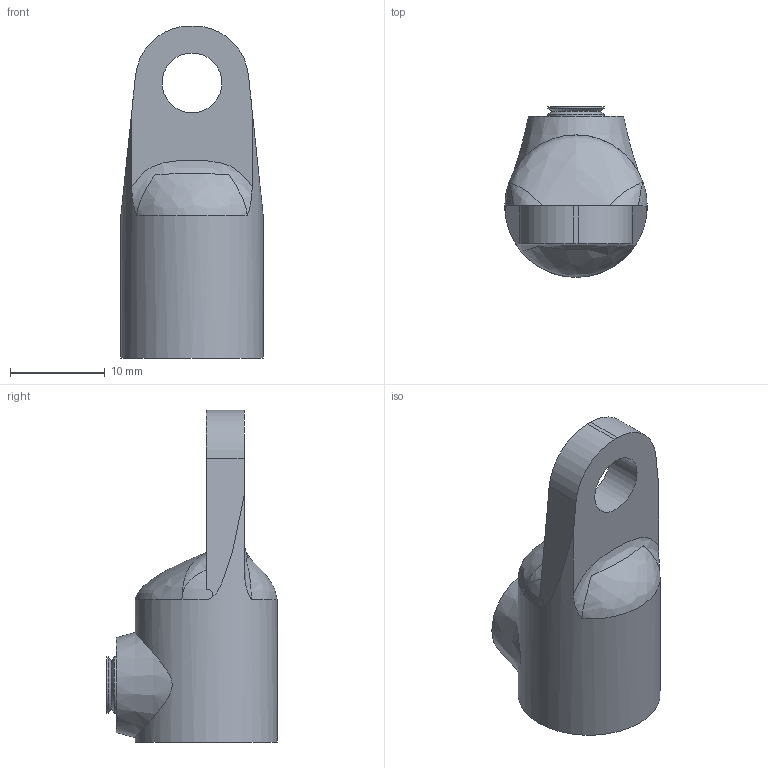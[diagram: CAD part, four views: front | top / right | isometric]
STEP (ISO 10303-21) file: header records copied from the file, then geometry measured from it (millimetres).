
FILE_DESCRIPTION (( 'STEP AP214' ), '1' );
FILE_NAME ('282119_Industrilas.step', '2020-08-24T21:11:37', ( '' ), ( '' ), 'SwSTEP 2.0', 'SolidWorks 2010', '' );
FILE_SCHEMA (( 'AUTOMOTIVE_DESIGN' ));
Length unit declared in the file: millimetre
Products named in the file (3): G282119_283019; 012131-8_012131; 282119_Industrilas
Assembly tree (2 placements, depth 2):
  282119_Industrilas
    G282119_283019
    012131-8_012131
Bounding box: 15 x 18 x 35 mm (x, y, z)
Volume: 3313.5 mm3; surface area: 2472.2 mm2
Topology: 2 solids, 2 shells, 68 faces, 161 edges, 98 vertices
Faces by surface type: cone 27, cylinder 17, plane 17, bspline 7
Full cylindrical faces by diameter (mm): 4.9 x6, 6 x6, 6.3 x1, 8.2 x1, 15 x1
Entity records: 3359 total; most frequent: CARTESIAN_POINT 1962, DIRECTION 269, ORIENTED_EDGE 218, AXIS2_PLACEMENT_3D 119, EDGE_LOOP 113, EDGE_CURVE 109, VERTEX_POINT 86, FACE_OUTER_BOUND 83
